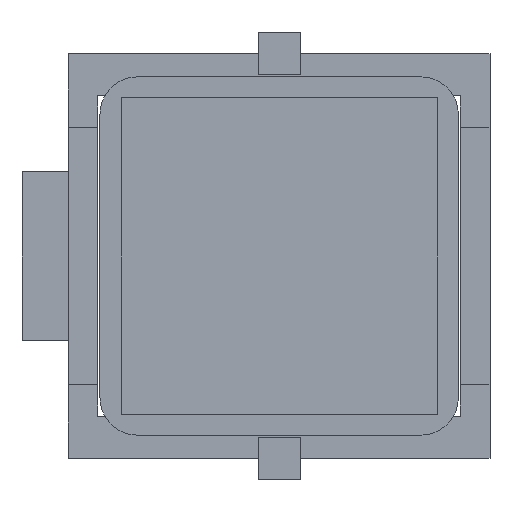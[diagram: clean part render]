
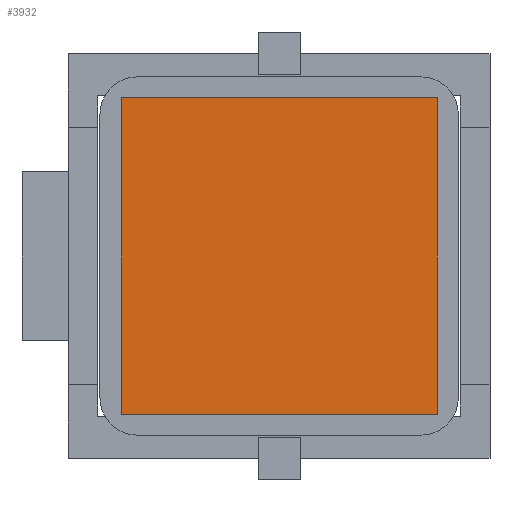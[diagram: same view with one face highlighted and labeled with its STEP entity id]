
A CAD part, front view. The second image highlights one B-rep face of the part: STEP entity #3932.
In plain terms, the highlighted planar face has unit normal (0, -1, 0).
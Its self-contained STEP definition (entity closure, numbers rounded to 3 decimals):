
#88 = ORIENTED_EDGE ( 'NONE', *, *, #2951, .F. ) ;
#245 = DIRECTION ( 'NONE',  ( -1., 0., 0. ) ) ;
#333 = VECTOR ( 'NONE', #701, 1000. ) ;
#533 = EDGE_CURVE ( 'NONE', #2014, #3881, #1644, .T. ) ;
#582 = ORIENTED_EDGE ( 'NONE', *, *, #1965, .F. ) ;
#671 = PLANE ( 'NONE',  #3422 ) ;
#701 = DIRECTION ( 'NONE',  ( 1., 0., 0. ) ) ;
#1009 = LINE ( 'NONE', #2143, #3112 ) ;
#1618 = VERTEX_POINT ( 'NONE', #2888 ) ;
#1619 = VECTOR ( 'NONE', #245, 1000. ) ;
#1644 = LINE ( 'NONE', #4452, #1619 ) ;
#1923 = DIRECTION ( 'NONE',  ( 0., 0., 1. ) ) ;
#1965 = EDGE_CURVE ( 'NONE', #1618, #3700, #2788, .T. ) ;
#2014 = VERTEX_POINT ( 'NONE', #2609 ) ;
#2121 = DIRECTION ( 'NONE',  ( 0., 0., 1. ) ) ;
#2143 = CARTESIAN_POINT ( 'NONE',  ( -3.413, -13.936, -0.275 ) ) ;
#2457 = FACE_OUTER_BOUND ( 'NONE', #2773, .T. ) ;
#2592 = DIRECTION ( 'NONE',  ( 0., 1., 0. ) ) ;
#2609 = CARTESIAN_POINT ( 'NONE',  ( 11.587, -13.936, -0.275 ) ) ;
#2620 = CARTESIAN_POINT ( 'NONE',  ( 11.587, -13.936, 14.725 ) ) ;
#2773 = EDGE_LOOP ( 'NONE', ( #88, #3194, #4210, #582 ) ) ;
#2788 = LINE ( 'NONE', #3826, #333 ) ;
#2888 = CARTESIAN_POINT ( 'NONE',  ( -3.413, -13.936, 14.725 ) ) ;
#2950 = CARTESIAN_POINT ( 'NONE',  ( -3.413, -13.936, 14.725 ) ) ;
#2951 = EDGE_CURVE ( 'NONE', #3881, #1618, #1009, .T. ) ;
#3112 = VECTOR ( 'NONE', #2121, 1000. ) ;
#3141 = DIRECTION ( 'NONE',  ( 0., 0., -1. ) ) ;
#3194 = ORIENTED_EDGE ( 'NONE', *, *, #533, .F. ) ;
#3215 = CARTESIAN_POINT ( 'NONE',  ( -3.413, -13.936, -0.275 ) ) ;
#3422 = AXIS2_PLACEMENT_3D ( 'NONE', #2950, #2592, #1923 ) ;
#3700 = VERTEX_POINT ( 'NONE', #2620 ) ;
#3826 = CARTESIAN_POINT ( 'NONE',  ( -3.413, -13.936, 14.725 ) ) ;
#3849 = LINE ( 'NONE', #4207, #4389 ) ;
#3881 = VERTEX_POINT ( 'NONE', #3215 ) ;
#3932 = ADVANCED_FACE ( 'NONE', ( #2457 ), #671, .F. ) ;
#4162 = EDGE_CURVE ( 'NONE', #3700, #2014, #3849, .T. ) ;
#4207 = CARTESIAN_POINT ( 'NONE',  ( 11.587, -13.936, -0.275 ) ) ;
#4210 = ORIENTED_EDGE ( 'NONE', *, *, #4162, .F. ) ;
#4389 = VECTOR ( 'NONE', #3141, 1000. ) ;
#4452 = CARTESIAN_POINT ( 'NONE',  ( -3.413, -13.936, -0.275 ) ) ;
